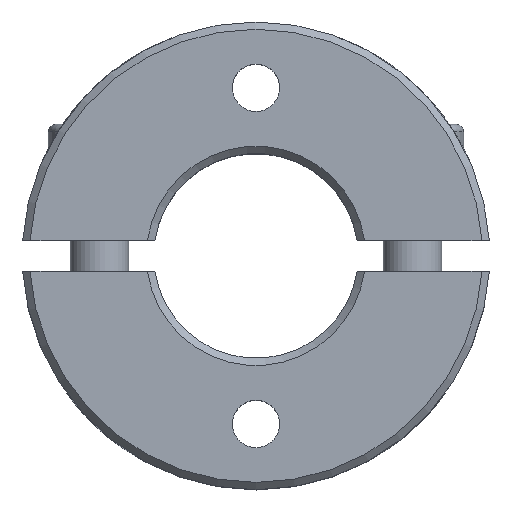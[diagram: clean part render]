
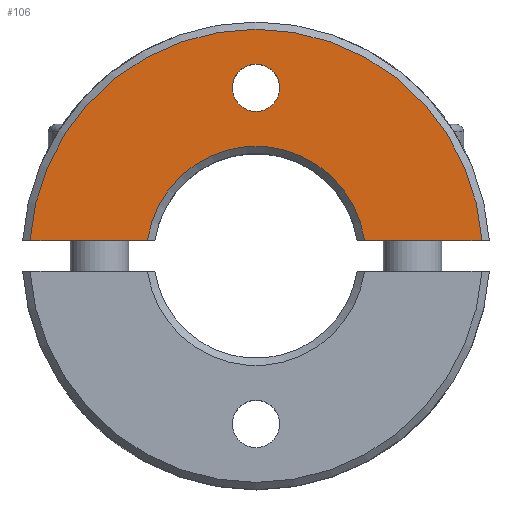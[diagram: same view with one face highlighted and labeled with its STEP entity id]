
A CAD part, top view. The second image highlights one B-rep face of the part: STEP entity #106.
In plain terms, the highlighted planar face has unit normal (0, 0, 1).
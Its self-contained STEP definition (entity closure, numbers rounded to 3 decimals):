
#106 = ADVANCED_FACE( '', ( #215, #216 ), #217, .T. );
#215 = FACE_OUTER_BOUND( '', #365, .T. );
#216 = FACE_BOUND( '', #366, .T. );
#217 = PLANE( '', #367 );
#365 = EDGE_LOOP( '', ( #638, #639, #640, #641 ) );
#366 = EDGE_LOOP( '', ( #642 ) );
#367 = AXIS2_PLACEMENT_3D( '', #643, #644, #645 );
#638 = ORIENTED_EDGE( '', *, *, #865, .F. );
#639 = ORIENTED_EDGE( '', *, *, #904, .T. );
#640 = ORIENTED_EDGE( '', *, *, #899, .F. );
#641 = ORIENTED_EDGE( '', *, *, #854, .F. );
#642 = ORIENTED_EDGE( '', *, *, #894, .T. );
#643 = CARTESIAN_POINT( '', ( 0., 7.5, 5.5 ) );
#644 = DIRECTION( '', ( 0., 0., 1. ) );
#645 = DIRECTION( '', ( 1., 0., 0. ) );
#854 = EDGE_CURVE( '', #988, #989, #990, .T. );
#865 = EDGE_CURVE( '', #1007, #988, #1009, .T. );
#894 = EDGE_CURVE( '', #1059, #1059, #1060, .F. );
#899 = EDGE_CURVE( '', #989, #1068, #1069, .T. );
#904 = EDGE_CURVE( '', #1007, #1068, #1075, .T. );
#988 = VERTEX_POINT( '', #1405 );
#989 = VERTEX_POINT( '', #1406 );
#990 = CIRCLE( '', #1407, 7.5 );
#1007 = VERTEX_POINT( '', #1438 );
#1009 = LINE( '', #1443, #1444 );
#1059 = VERTEX_POINT( '', #1566 );
#1060 = CIRCLE( '', #1567, 1.621 );
#1068 = VERTEX_POINT( '', #1576 );
#1069 = LINE( '', #1577, #1578 );
#1075 = CIRCLE( '', #1589, 15.5 );
#1405 = CARTESIAN_POINT( '', ( 7.426, 1.05, 5.5 ) );
#1406 = CARTESIAN_POINT( '', ( -7.426, 1.05, 5.5 ) );
#1407 = AXIS2_PLACEMENT_3D( '', #1719, #1720, #1721 );
#1438 = CARTESIAN_POINT( '', ( 15.464, 1.05, 5.5 ) );
#1443 = CARTESIAN_POINT( '', ( 18., 1.05, 5.5 ) );
#1444 = VECTOR( '', #1733, 1000. );
#1566 = CARTESIAN_POINT( '', ( 1.621, 11.5, 5.5 ) );
#1567 = AXIS2_PLACEMENT_3D( '', #1777, #1778, #1779 );
#1576 = CARTESIAN_POINT( '', ( -15.464, 1.05, 5.5 ) );
#1577 = CARTESIAN_POINT( '', ( 0., 1.05, 5.5 ) );
#1578 = VECTOR( '', #1790, 1000. );
#1589 = AXIS2_PLACEMENT_3D( '', #1796, #1797, #1798 );
#1719 = CARTESIAN_POINT( '', ( 0., 0., 5.5 ) );
#1720 = DIRECTION( '', ( 0., 0., 1. ) );
#1721 = DIRECTION( '', ( 1., 0., 0. ) );
#1733 = DIRECTION( '', ( -1., 0., 0. ) );
#1777 = CARTESIAN_POINT( '', ( 0., 11.5, 5.5 ) );
#1778 = DIRECTION( '', ( 0., 0., 1. ) );
#1779 = DIRECTION( '', ( 1., 0., 0. ) );
#1790 = DIRECTION( '', ( -1., 0., 0. ) );
#1796 = CARTESIAN_POINT( '', ( 0., 0., 5.5 ) );
#1797 = DIRECTION( '', ( 0., 0., 1. ) );
#1798 = DIRECTION( '', ( 1., 0., 0. ) );
